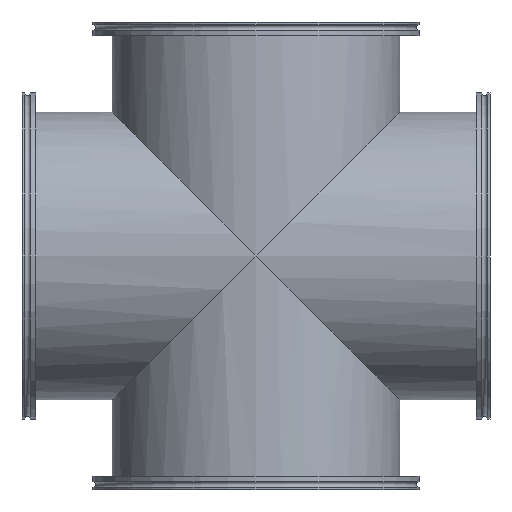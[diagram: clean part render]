
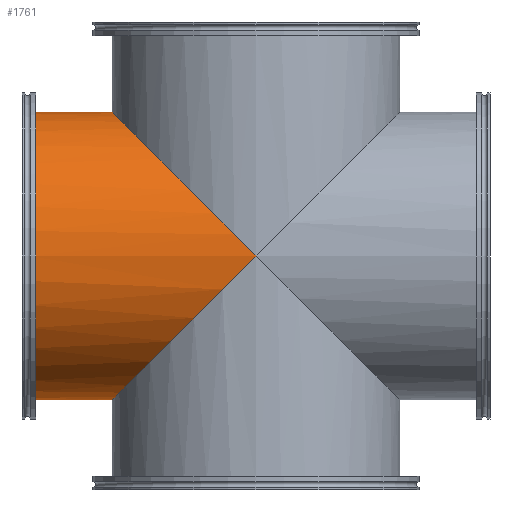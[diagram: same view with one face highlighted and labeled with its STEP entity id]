
A CAD part, front view. The second image highlights one B-rep face of the part: STEP entity #1761.
In plain terms, the highlighted cylindrical face has radius 128 mm (diameter 256 mm), a full revolution.
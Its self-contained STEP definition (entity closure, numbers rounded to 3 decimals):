
#889=CARTESIAN_POINT('',(-197.,-48.,0.));
#890=VERTEX_POINT('',#889);
#891=CARTESIAN_POINT('',(-197.,80.,0.));
#892=DIRECTION('',(1.0,0.0,0.0));
#893=DIRECTION('',(0.0,1.0,0.0));
#894=AXIS2_PLACEMENT_3D('',#891,#892,#893);
#895=CIRCLE('',#894,128.0);
#896=EDGE_CURVE('',#890,#890,#895,.T.);
#1733=CARTESIAN_POINT('',(4.,80.,0.));
#1734=DIRECTION('',(1.0,0.,0.));
#1735=DIRECTION('',(0.0,1.0,0.0));
#1736=AXIS2_PLACEMENT_3D('',#1733,#1734,#1735);
#1737=CYLINDRICAL_SURFACE('',#1736,128.0);
#1738=CARTESIAN_POINT('',(4.,-48.,0.));
#1739=VERTEX_POINT('',#1738);
#1740=CARTESIAN_POINT('',(4.,208.,0.));
#1741=VERTEX_POINT('',#1740);
#1742=CARTESIAN_POINT('',(4.,80.,0.));
#1743=DIRECTION('',(0.707,0.,-0.707));
#1744=DIRECTION('',(0.707,0.,0.707));
#1745=AXIS2_PLACEMENT_3D('',#1742,#1743,#1744);
#1746=ELLIPSE('',#1745,181.019,128.);
#1747=EDGE_CURVE('',#1739,#1741,#1746,.T.);
#1748=ORIENTED_EDGE('',*,*,#1747,.F.);
#1749=CARTESIAN_POINT('',(4.,80.,0.));
#1750=DIRECTION('',(0.707,0.,0.707));
#1751=DIRECTION('',(-0.707,0.,0.707));
#1752=AXIS2_PLACEMENT_3D('',#1749,#1750,#1751);
#1753=ELLIPSE('',#1752,181.019,128.);
#1754=EDGE_CURVE('',#1741,#1739,#1753,.T.);
#1755=ORIENTED_EDGE('',*,*,#1754,.F.);
#1756=EDGE_LOOP('',(#1748,#1755));
#1757=FACE_OUTER_BOUND('',#1756,.T.);
#1758=ORIENTED_EDGE('',*,*,#896,.T.);
#1759=EDGE_LOOP('',(#1758));
#1760=FACE_BOUND('',#1759,.T.);
#1761=ADVANCED_FACE('',(#1757,#1760),#1737,.T.);
